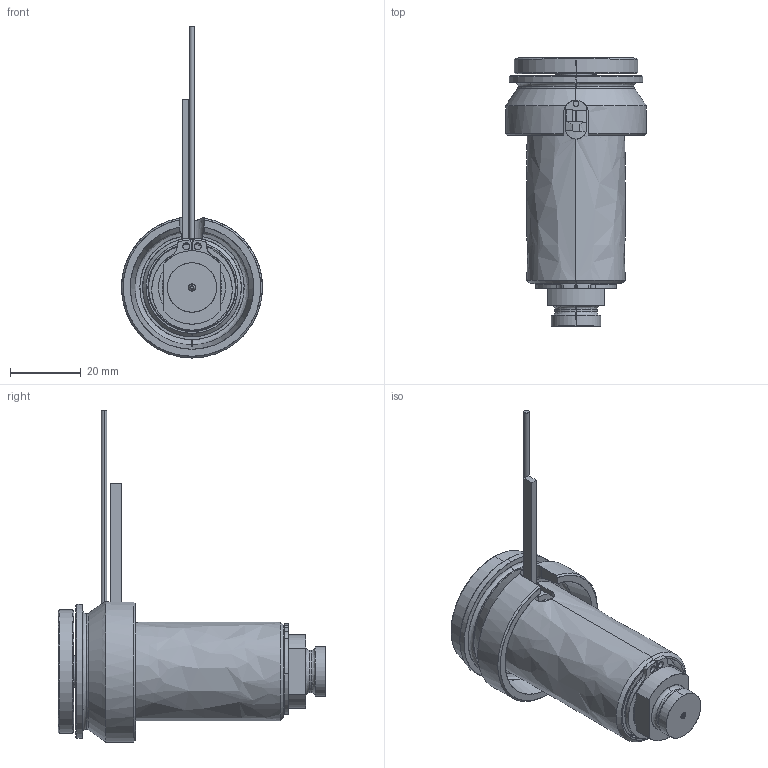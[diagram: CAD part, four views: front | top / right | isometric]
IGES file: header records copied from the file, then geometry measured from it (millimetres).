
Start section: SolidWorks IGES file using analytic representation for surfaces
Global section: file name: C:\Documents and Settings\ws-20\Desktop\TEM\UGEP4101-S-A-0 [Øf-0.88 P-0 ØC-09].IGS; native system: SolidWorks 2012; preprocessor: SolidWorks 2012; author: ws-20; date: 120426.084757; units: millimetre
Bounding box: 40 x 76 x 94.15 mm (x, y, z)
Surface area: 24645.6 mm2 (no closed solid volume)
Topology: 0 solids, 0 shells, 116 faces, 2001 edges, 2001 vertices
Faces by surface type: revolution 70, bspline 46
